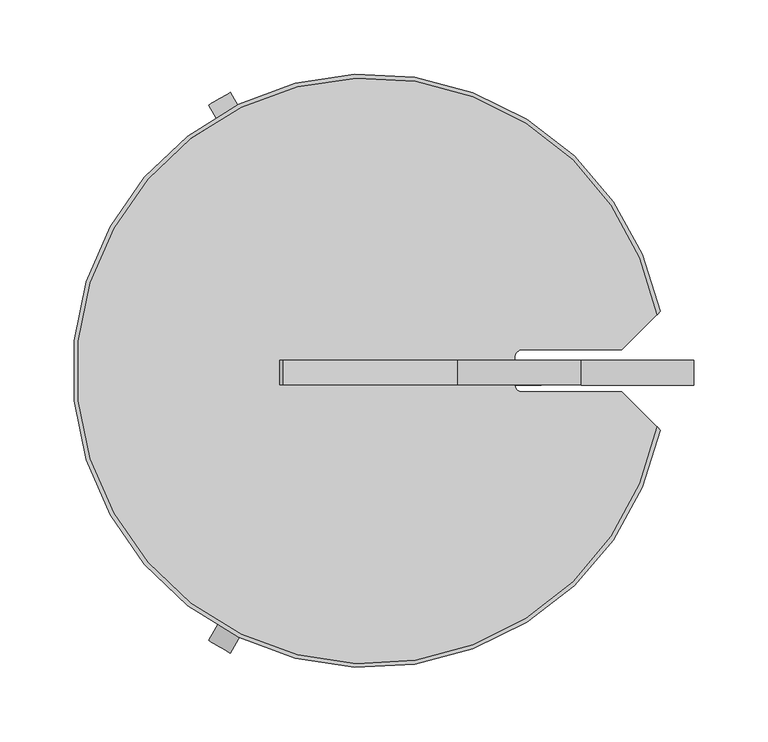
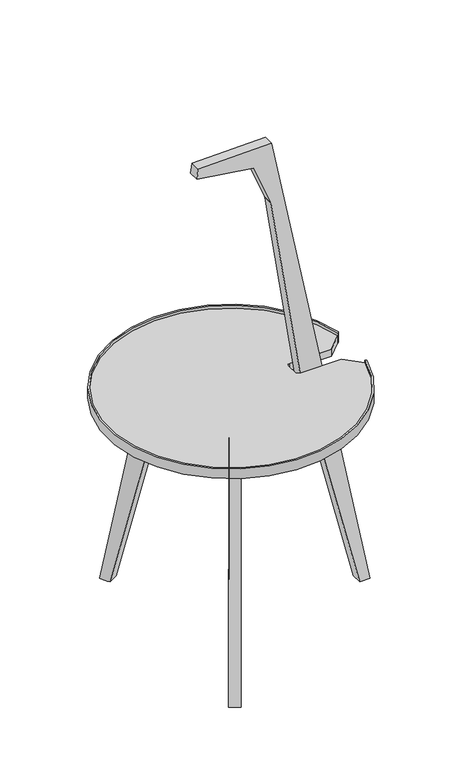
"""IFC4 building model written with IfcOpenShell, lengths in millimetres: furniture geometry, Haworth_Cicognino_OccasionalTable : Cicognino Occasional Table."""

from ifc_helpers import new_model, si_unit, point, frame, frame_2d, origin, place, context, project, spatial, polyline, circle_curve, trimmed, segment, composite_curve, outline, extrude, source, transform, mapped, element, save
from ifc_brep_helpers import plane_surface, spline_surface, advanced_brep


def furniture_8a22b242(model_context):
    return source(origin(), model_context, "Body", "SolidModel", [
        extrude(outline(polyline([(-328.0538335, -53.7748023), (-328.0538342, -70.7432629), (-342.7489533, -62.2590328), (-328.0538335, -53.7748023)])), frame((0.0, 0.0, 345.200005), z_axis=(0.0, 0.0, 1.0), x_axis=(1.0, 0.0, 0.0)), (0.0, 0.0, 1.0), 34.6336225),
        advanced_brep(
        [(-376.5952232, -154.3382342, 379.8335741), (-328.2388857, -70.6364234, 379.8335741), (-342.8113276, -62.223021, 379.8335741), (-391.1443568, -145.9382908, 379.8335741), (-380.7583449, -161.5492214, 345.200005), (-395.1343712, -153.2492163, 345.200005), (-342.6381261, -62.32302, 345.200005), (-328.2620772, -70.6230329, 345.200005)],
        [
            (0, 1),
            (1, 2),
            (2, 3),
            (3, 0),
            (4, 5),
            (5, 6),
            (6, 7),
            (7, 4),
            (0, 4),
            (7, 1),
            (6, 2),
            (5, 3),
        ],
        [
            plane_surface(frame((-359.6974483, -108.2839923, 379.8335741), z_axis=(0.0, 0.0, 1.0000000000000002), x_axis=(0.8660254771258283, -0.49999987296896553, 0.0))),
            plane_surface(frame((-361.6982298, -111.9361226, 345.200005), z_axis=(0.0, 0.0, -1.0000000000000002), x_axis=(0.8660254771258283, -0.49999987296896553, 0.0))),
            spline_surface(1, 1, [[(-380.7583449, -161.5492214, 345.200005), (-376.5952232, -154.3382342, 379.8335741)], [(-328.2620772, -70.6230329, 345.200005), (-328.2388857, -70.6364234, 379.8335741)]], [2, 2], [2, 2], [0.0, 1.0], [0.0, 1.0]),
            spline_surface(1, 1, [[(-328.2620772, -70.6230329, 345.200005), (-328.2388857, -70.6364234, 379.8335741)], [(-342.6381261, -62.32302, 345.200005), (-342.8113276, -62.223021, 379.8335741)]], [2, 2], [2, 2], [0.0, 1.0], [0.0, 1.0]),
            spline_surface(1, 1, [[(-342.6381261, -62.32302, 345.200005), (-342.8113276, -62.223021, 379.8335741)], [(-395.1343712, -153.2492163, 345.200005), (-391.1443568, -145.9382908, 379.8335741)]], [2, 2], [2, 2], [0.0, 1.0], [0.0, 1.0]),
            spline_surface(1, 1, [[(-395.1343712, -153.2492163, 345.200005), (-391.1443568, -145.9382908, 379.8335741)], [(-380.7583449, -161.5492214, 345.200005), (-376.5952232, -154.3382342, 379.8335741)]], [2, 2], [2, 2], [0.0, 1.0], [0.0, 1.0]),
        ],
        [
            (0, [[1, 2, 3, 4]]),
            (1, [[5, 6, 7, 8]]),
            (2, [[-1, 9, -8, 10]]),
            (3, [[-2, -10, -7, 11]]),
            (4, [[-3, -11, -6, 12]]),
            (5, [[-4, -12, -5, -9]]),
        ],
    ),
        advanced_brep(
        [(-231.387771, -70.6948327, 379.8335741), (-231.3877686, -53.8949417, 379.8335741), (-328.0538335, -53.8949378, 379.8335741), (-328.0538342, -70.7217439, 379.8335741), (-223.0613121, -70.6949571, 345.200005), (-328.053835, -70.6949643, 345.200005), (-328.0538326, -54.0949343, 345.200005), (-223.0613142, -54.0949505, 345.200005)],
        [
            (0, 1),
            (1, 2),
            (2, 3),
            (3, 0),
            (4, 5),
            (5, 6),
            (6, 7),
            (7, 4),
            (3, 5),
            (4, 0),
            (2, 6),
            (1, 7),
        ],
        [
            plane_surface(frame((-279.7208018, -62.301614, 379.8335741), z_axis=(0.0, 0.0, 1.0000000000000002), x_axis=(-0.9999999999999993, 3.9760876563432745e-08, 0.0))),
            plane_surface(frame((-275.5575735, -62.3949516, 345.200005), z_axis=(0.0, 0.0, -1.0000000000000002), x_axis=(-0.9999999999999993, 3.9760876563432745e-08, 0.0))),
            spline_surface(1, 1, [[(-328.053835, -70.6949643, 345.200005), (-328.0538342, -70.7217439, 379.8335741)], [(-223.0613121, -70.6949571, 345.200005), (-231.387771, -70.6948327, 379.8335741)]], [2, 2], [2, 2], [0.0, 1.0], [0.0, 1.0]),
            spline_surface(1, 1, [[(-328.0538326, -54.0949343, 345.200005), (-328.0538335, -53.8949378, 379.8335741)], [(-328.053835, -70.6949643, 345.200005), (-328.0538342, -70.7217439, 379.8335741)]], [2, 2], [2, 2], [0.0, 1.0], [0.0, 1.0]),
            spline_surface(1, 1, [[(-223.0613142, -54.0949505, 345.200005), (-231.3877686, -53.8949417, 379.8335741)], [(-328.0538326, -54.0949343, 345.200005), (-328.0538335, -53.8949378, 379.8335741)]], [2, 2], [2, 2], [0.0, 1.0], [0.0, 1.0]),
            spline_surface(1, 1, [[(-223.0613121, -70.6949571, 345.200005), (-231.387771, -70.6948327, 379.8335741)], [(-223.0613142, -54.0949505, 345.200005), (-231.3877686, -53.8949417, 379.8335741)]], [2, 2], [2, 2], [0.0, 1.0], [0.0, 1.0]),
        ],
        [
            (0, [[1, 2, 3, 4]]),
            (1, [[5, 6, 7, 8]]),
            (2, [[-4, 9, -5, 10]]),
            (3, [[-3, 11, -6, -9]]),
            (4, [[-2, 12, -7, -11]]),
            (5, [[-1, -10, -8, -12]]),
        ],
    ),
        advanced_brep(
        [(-376.5952232, 29.8201686, 379.8335741), (-391.1443568, 21.4202252, 379.8335741), (-342.8113276, -62.2950446, 379.8335741), (-328.2388857, -53.8816422, 379.8335741), (-380.7583449, 37.0311557, 345.200005), (-328.2620772, -53.8950327, 345.200005), (-342.6381261, -62.1950456, 345.200005), (-395.1343712, 28.7311506, 345.200005)],
        [
            (0, 1),
            (1, 2),
            (2, 3),
            (3, 0),
            (4, 5),
            (5, 6),
            (6, 7),
            (7, 4),
            (3, 5),
            (4, 0),
            (2, 6),
            (1, 7),
        ],
        [
            plane_surface(frame((-359.6974483, -16.2340733, 379.8335741), z_axis=(0.0, 0.0, 1.0000000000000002), x_axis=(0.49999996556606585, -0.866025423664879, 0.0))),
            plane_surface(frame((-361.6982298, -12.581943, 345.200005), z_axis=(0.0, 0.0, -1.0000000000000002), x_axis=(0.49999996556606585, -0.866025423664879, 0.0))),
            spline_surface(1, 1, [[(-328.2620772, -53.8950327, 345.200005), (-328.2388857, -53.8816422, 379.8335741)], [(-380.7583449, 37.0311557, 345.200005), (-376.5952232, 29.8201686, 379.8335741)]], [2, 2], [2, 2], [0.0, 1.0], [0.0, 1.0]),
            spline_surface(1, 1, [[(-342.6381261, -62.1950456, 345.200005), (-342.8113276, -62.2950446, 379.8335741)], [(-328.2620772, -53.8950327, 345.200005), (-328.2388857, -53.8816422, 379.8335741)]], [2, 2], [2, 2], [0.0, 1.0], [0.0, 1.0]),
            spline_surface(1, 1, [[(-395.1343712, 28.7311506, 345.200005), (-391.1443568, 21.4202252, 379.8335741)], [(-342.6381261, -62.1950456, 345.200005), (-342.8113276, -62.2950446, 379.8335741)]], [2, 2], [2, 2], [0.0, 1.0], [0.0, 1.0]),
            spline_surface(1, 1, [[(-380.7583449, 37.0311557, 345.200005), (-376.5952232, 29.8201686, 379.8335741)], [(-395.1343712, 28.7311506, 345.200005), (-391.1443568, 21.4202252, 379.8335741)]], [2, 2], [2, 2], [0.0, 1.0], [0.0, 1.0]),
        ],
        [
            (0, [[1, 2, 3, 4]]),
            (1, [[5, 6, 7, 8]]),
            (2, [[-4, 9, -5, 10]]),
            (3, [[-3, 11, -6, -9]]),
            (4, [[-2, 12, -7, -11]]),
            (5, [[-1, -10, -8, -12]]),
        ],
    ),
        extrude(outline(composite_curve([segment(polyline([(692.3731301, -279.83202), (380.196805, -231.8440583)]), True, "CONTINUOUS"), segment(trimmed(circle_curve(frame_2d((381.744084, -221.7785364)), 10.183752), [point((380.196805, -231.8440583))], [point((379.2787825, -231.6593811))], False, "CARTESIAN"), True, "CONTINUOUS"), segment(polyline([(379.2787825, -231.6593811), (0.0, -137.0281446), (0.0, -120.3546216), (379.9764796, -196.0773681), (795.0104093, -279.0093562), (792.2802422, -396.9520266), (775.4187304, -398.9487741), (762.6454674, -308.3748581)]), True, "CONTINUOUS"), segment(trimmed(circle_curve(frame_2d((761.884889, -308.4821193)), 0.7681045), [point((762.6454674, -308.3748581))], [point((762.1737334, -307.7703936))], True, "CARTESIAN"), True, "CONTINUOUS"), segment(polyline([(762.1737334, -307.7703936), (695.3646125, -280.6568052)]), True, "CONTINUOUS"), segment(trimmed(circle_curve(frame_2d((690.3450656, -293.025198)), 13.3481456), [point((695.3646125, -280.6568052))], [point((692.3731301, -279.83202))], True, "CARTESIAN"), True, "CONTINUOUS")], self_intersect=False)), frame((0.0, -70.60964, 0.0), z_axis=(0.0, 1.0, 0.0), x_axis=(0.0, 0.0, 1.0)), (0.0, 0.0, 1.0), 16.8000289),
        advanced_brep(
        [(-408.6165252, 52.0829347, 379.8335741), (-390.9711451, 21.520229, 379.8335741), (-376.5951149, 29.8202311, 379.8335741), (-394.2405041, 60.3829368, 379.8335741), (-446.8358779, 117.880816, 0.0), (-432.1134712, 126.3807961, 0.0), (-423.6700556, 111.7563796, 0.0), (-438.392463, 103.2563859, 0.0)],
        [
            (0, 1),
            (1, 2),
            (2, 3),
            (3, 0),
            (4, 5),
            (5, 6),
            (6, 7),
            (7, 4),
            (4, 0),
            (3, 5),
            (2, 6),
            (1, 7),
        ],
        [
            plane_surface(frame((-392.6058223, 40.9515829, 379.8335741), z_axis=(0.0, 0.0, 1.0), x_axis=(0.49999986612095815, -0.8660254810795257, 0.0))),
            plane_surface(frame((-435.2529669, 114.8185944, 0.0), z_axis=(0.0, 0.0, -1.0), x_axis=(0.49999986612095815, -0.8660254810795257, 0.0))),
            spline_surface(1, 1, [[(-432.1134712, 126.3807961, 0.0), (-394.2405041, 60.3829368, 379.8335741)], [(-446.8358779, 117.880816, 0.0), (-408.6165252, 52.0829347, 379.8335741)]], [2, 2], [2, 2], [0.0, 1.0], [0.0, 1.0]),
            spline_surface(1, 1, [[(-423.6700556, 111.7563796, 0.0), (-376.5951149, 29.8202311, 379.8335741)], [(-432.1134712, 126.3807961, 0.0), (-394.2405041, 60.3829368, 379.8335741)]], [2, 2], [2, 2], [0.0, 1.0], [0.0, 1.0]),
            spline_surface(1, 1, [[(-438.392463, 103.2563859, 0.0), (-390.9711451, 21.520229, 379.8335741)], [(-423.6700556, 111.7563796, 0.0), (-376.5951149, 29.8202311, 379.8335741)]], [2, 2], [2, 2], [0.0, 1.0], [0.0, 1.0]),
            spline_surface(1, 1, [[(-446.8358779, 117.880816, 0.0), (-408.6165252, 52.0829347, 379.8335741)], [(-438.392463, 103.2563859, 0.0), (-390.9711451, 21.520229, 379.8335741)]], [2, 2], [2, 2], [0.0, 1.0], [0.0, 1.0]),
        ],
        [
            (0, [[1, 2, 3, 4]]),
            (1, [[5, 6, 7, 8]]),
            (2, [[-5, 9, -4, 10]]),
            (3, [[-6, -10, -3, 11]]),
            (4, [[-7, -11, -2, 12]]),
            (5, [[-8, -12, -1, -9]]),
        ],
    ),
        advanced_brep(
        [(-408.6165252, -176.6010003, 379.8335741), (-394.2405041, -184.9010024, 379.8335741), (-376.5951149, -154.3382967, 379.8335741), (-390.9711451, -146.0382946, 379.8335741), (-446.8358779, -242.3988816, 0.0), (-438.392463, -227.7744515, 0.0), (-423.6700556, -236.2744452, 0.0), (-432.1134712, -250.8988617, 0.0)],
        [
            (0, 1),
            (1, 2),
            (2, 3),
            (3, 0),
            (4, 5),
            (5, 6),
            (6, 7),
            (7, 4),
            (7, 1),
            (0, 4),
            (6, 2),
            (5, 3),
        ],
        [
            plane_surface(frame((-392.6058223, -165.4696485, 379.8335741), z_axis=(0.0, 0.0, 1.0000000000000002), x_axis=(0.8660253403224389, -0.5000001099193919, 0.0))),
            plane_surface(frame((-435.2529669, -239.33666, 0.0), z_axis=(0.0, 0.0, -1.0000000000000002), x_axis=(0.8660253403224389, -0.5000001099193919, 0.0))),
            spline_surface(1, 1, [[(-446.8358779, -242.3988816, 0.0), (-408.6165252, -176.6010003, 379.8335741)], [(-432.1134712, -250.8988617, 0.0), (-394.2405041, -184.9010024, 379.8335741)]], [2, 2], [2, 2], [0.0, 1.0], [0.0, 1.0]),
            spline_surface(1, 1, [[(-432.1134712, -250.8988617, 0.0), (-394.2405041, -184.9010024, 379.8335741)], [(-423.6700556, -236.2744452, 0.0), (-376.5951149, -154.3382967, 379.8335741)]], [2, 2], [2, 2], [0.0, 1.0], [0.0, 1.0]),
            spline_surface(1, 1, [[(-423.6700556, -236.2744452, 0.0), (-376.5951149, -154.3382967, 379.8335741)], [(-438.392463, -227.7744515, 0.0), (-390.9711451, -146.0382946, 379.8335741)]], [2, 2], [2, 2], [0.0, 1.0], [0.0, 1.0]),
            spline_surface(1, 1, [[(-438.392463, -227.7744515, 0.0), (-390.9711451, -146.0382946, 379.8335741)], [(-446.8358779, -242.3988816, 0.0), (-408.6165252, -176.6010003, 379.8335741)]], [2, 2], [2, 2], [0.0, 1.0], [0.0, 1.0]),
        ],
        [
            (0, [[1, 2, 3, 4]]),
            (1, [[5, 6, 7, 8]]),
            (2, [[-8, 9, -1, 10]]),
            (3, [[-7, 11, -2, -9]]),
            (4, [[-6, 12, -3, -11]]),
            (5, [[-5, -10, -4, -12]]),
        ],
    ),
        extrude(outline(composite_curve([segment(trimmed(circle_curve(frame_2d((-338.5090289, -60.9887729)), 197.2124021), [point((-144.9738677, -98.8948793))], [point((-144.9738677, -23.0826666))], False, "CARTESIAN"), True, "CONTINUOUS"), segment(polyline([(-144.9738677, -23.0826666), (-168.7801335, -46.8889324), (-235.5565137, -46.7903948)]), True, "CONTINUOUS"), segment(trimmed(circle_curve(frame_2d((-235.5644077, -52.1399113)), 5.3495224), [point((-235.5565137, -46.7903948))], [point((-240.91393, -52.1399113))], True, "CARTESIAN"), True, "CONTINUOUS"), segment(polyline([(-240.91393, -52.1399113), (-240.91393, -69.841939)]), True, "CONTINUOUS"), segment(trimmed(circle_curve(frame_2d((-235.5687058, -69.841939)), 5.3452242), [point((-240.91393, -69.841939))], [point((-235.5608183, -75.1871574))], True, "CARTESIAN"), True, "CONTINUOUS"), segment(polyline([(-235.5608183, -75.1871574), (-168.7801335, -75.0886135), (-144.9738677, -98.8948793)]), True, "CONTINUOUS")], self_intersect=False)), frame((0.0, 0.0, 379.8336312), z_axis=(0.0, 0.0, 1.0), x_axis=(1.0, 0.0, 0.0)), (0.0, 0.0, 1.0), 12.0084467),
        extrude(outline(composite_curve([segment(polyline([(-142.8485143, -21.0524421), (-144.9586383, -23.1605057)]), True, "CONTINUOUS"), segment(trimmed(circle_curve(frame_2d((-338.5090289, -60.9887729)), 197.2124021), [point((-144.9586383, -23.1605057))], [point((-144.9567353, -98.807302))], True, "CARTESIAN"), True, "CONTINUOUS"), segment(polyline([(-144.9567353, -98.807302), (-142.8484188, -100.9246356)]), True, "CONTINUOUS"), segment(trimmed(circle_curve(frame_2d((-338.5007696, -60.9887729)), 199.6865432), [point((-142.8484188, -100.9246356))], [point((-142.8485143, -21.0524421))], False, "CARTESIAN"), True, "CONTINUOUS")], self_intersect=False)), frame((0.0, 0.0, 379.8335741), z_axis=(0.0, 0.0, 1.0), x_axis=(1.0, 0.0, 0.0)), (0.0, 0.0, 1.0), 16.9077252),
    ])


if __name__ == "__main__":
    model = new_model("IFC4")
    model_context = context("Model", 3, world=origin())
    ifc_project = project(units=[si_unit("LENGTHUNIT", "METRE", prefix="MILLI")], contexts=[model_context])
    site = spatial("IfcSite", under=ifc_project)
    building = spatial("IfcBuilding", under=site)
    placement = place(None, origin())
    furniture_shape = furniture_8a22b242(model_context)
    element("IfcFurniture", 1, ObjectType="Haworth_Cicognino_OccasionalTable : Cicognino Occasional Table", at=placement, inside=building, context=model_context, shape_type="MappedRepresentation", body=[
        mapped(furniture_shape, transform((0.0, 0.0, 0.0), x_axis=(1.0, 0.0, 0.0), y_axis=(0.0, 1.0, 0.0), z_axis=(0.0, 0.0, 1.0))),
    ])
    save(model, "model.ifc")
